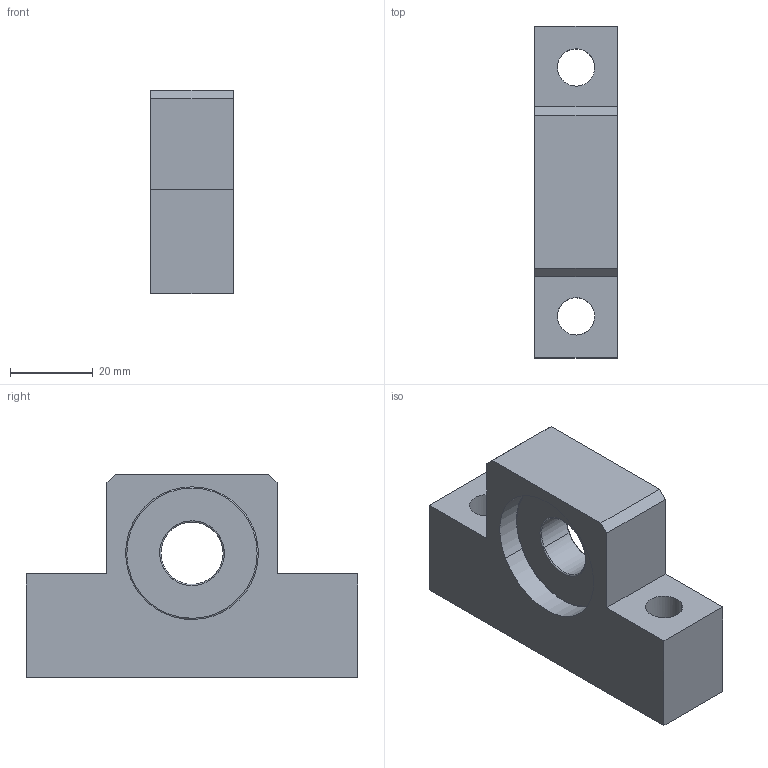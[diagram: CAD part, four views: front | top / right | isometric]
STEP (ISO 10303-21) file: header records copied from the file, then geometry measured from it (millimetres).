
FILE_DESCRIPTION(('CATIA V5 STEP Exchange'),'2;1');
FILE_NAME('D:\서포트 완성도면\EF\EF15.stp','2014-02-05T10:38:10+00:00',('none'),('none'),'CATIA Version 5 Release 18 GA (IN-10)','CATIA V5 STEP AP203','none');
FILE_SCHEMA(('CONFIG_CONTROL_DESIGN'));
Length unit declared in the file: millimetre
Products named in the file (1): EF15
Assembly tree (2 placements, depth 2):
  EF15
    #56
    #796
Bounding box: 20 x 80 x 49 mm (x, y, z)
Volume: 45976.3 mm3; surface area: 15180.4 mm2
Topology: 2 solids, 2 shells, 36 faces, 88 edges, 56 vertices
Faces by surface type: plane 14, torus 12, cylinder 10
Entity records: 1410 total; most frequent: CARTESIAN_POINT 507, ORIENTED_EDGE 176, DIRECTION 147, EDGE_CURVE 88, AXIS2_PLACEMENT_3D 68, VERTEX_POINT 56, EDGE_LOOP 44, VECTOR 40
